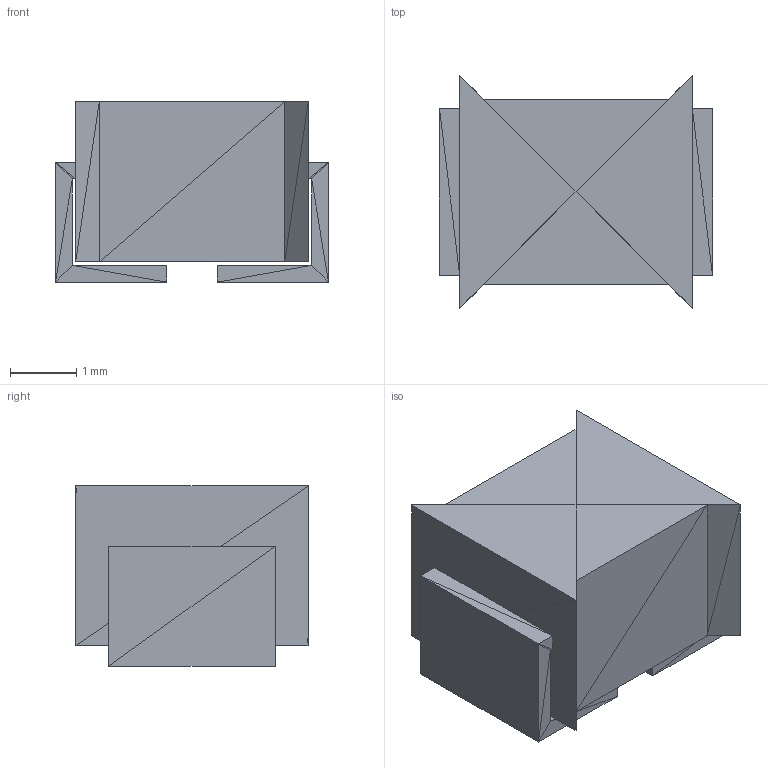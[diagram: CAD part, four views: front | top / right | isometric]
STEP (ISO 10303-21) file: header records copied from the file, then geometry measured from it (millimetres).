
FILE_DESCRIPTION(('STEP AP214'),'1');
FILE_NAME('ME3220','2019-07-31T20:05:48',(''),(''),'','','');
FILE_SCHEMA(('AUTOMOTIVE_DESIGN'));
Length unit declared in the file: millimetre
Products named in the file (1): product
Bounding box: 4.11 x 3.51 x 2.72 mm (x, y, z)
Surface area: 94.3 mm2 (no closed solid volume)
Topology: 0 solids, 80 shells, 80 faces, 240 edges, 240 vertices
Faces by surface type: plane 80
Entity records: 2699 total; most frequent: CARTESIAN_POINT 561, DIRECTION 402, ORIENTED_EDGE 240, EDGE_CURVE 240, VERTEX_POINT 240, LINE 240, VECTOR 240, AXIS2_PLACEMENT_3D 81
